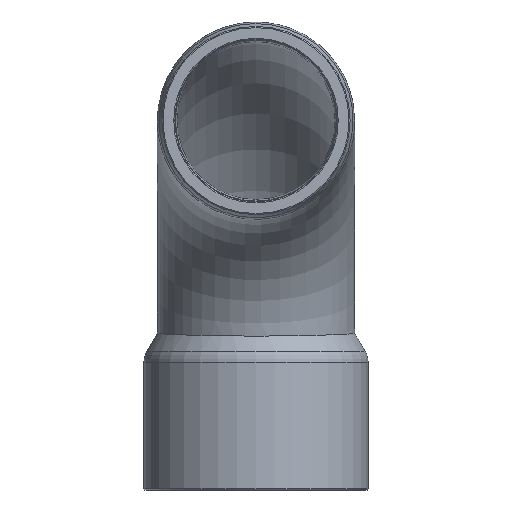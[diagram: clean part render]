
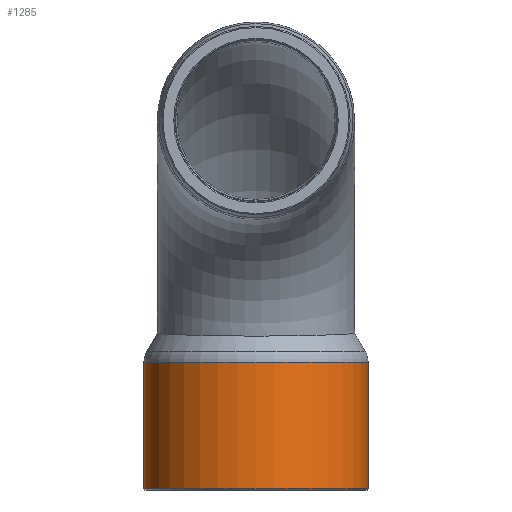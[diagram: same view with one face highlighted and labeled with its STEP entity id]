
A CAD part, front view. The second image highlights one B-rep face of the part: STEP entity #1285.
In plain terms, the highlighted cylindrical face has radius 19.852 mm (diameter 39.705 mm), a full revolution.
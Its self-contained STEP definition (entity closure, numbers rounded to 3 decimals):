
#1223=CARTESIAN_POINT('',(0.,61.752,-23.3));
#1224=VERTEX_POINT('',#1223);
#1225=CARTESIAN_POINT('',(0.0,41.9,-23.3));
#1226=DIRECTION('',(0.0,0.0,-1.0));
#1227=DIRECTION('',(0.0,-1.0,0.0));
#1228=AXIS2_PLACEMENT_3D('',#1225,#1226,#1227);
#1229=CIRCLE('',#1228,19.852);
#1230=EDGE_CURVE('',#1224,#1224,#1229,.T.);
#1266=CARTESIAN_POINT('',(0.0,41.9,-12.201));
#1267=DIRECTION('',(0.0,0.0,-1.0));
#1268=DIRECTION('',(0.0,1.0,0.0));
#1269=AXIS2_PLACEMENT_3D('',#1266,#1267,#1268);
#1270=CYLINDRICAL_SURFACE('',#1269,19.852);
#1271=CARTESIAN_POINT('',(0.0,61.752,-0.902));
#1272=VERTEX_POINT('',#1271);
#1273=CARTESIAN_POINT('',(0.0,41.9,-0.902));
#1274=DIRECTION('',(0.0,0.0,-1.0));
#1275=DIRECTION('',(0.0,1.0,0.0));
#1276=AXIS2_PLACEMENT_3D('',#1273,#1274,#1275);
#1277=CIRCLE('',#1276,19.852);
#1278=EDGE_CURVE('',#1272,#1272,#1277,.T.);
#1279=ORIENTED_EDGE('',*,*,#1278,.T.);
#1280=EDGE_LOOP('',(#1279));
#1281=FACE_OUTER_BOUND('',#1280,.T.);
#1282=ORIENTED_EDGE('',*,*,#1230,.F.);
#1283=EDGE_LOOP('',(#1282));
#1284=FACE_BOUND('',#1283,.T.);
#1285=ADVANCED_FACE('',(#1281,#1284),#1270,.T.);
